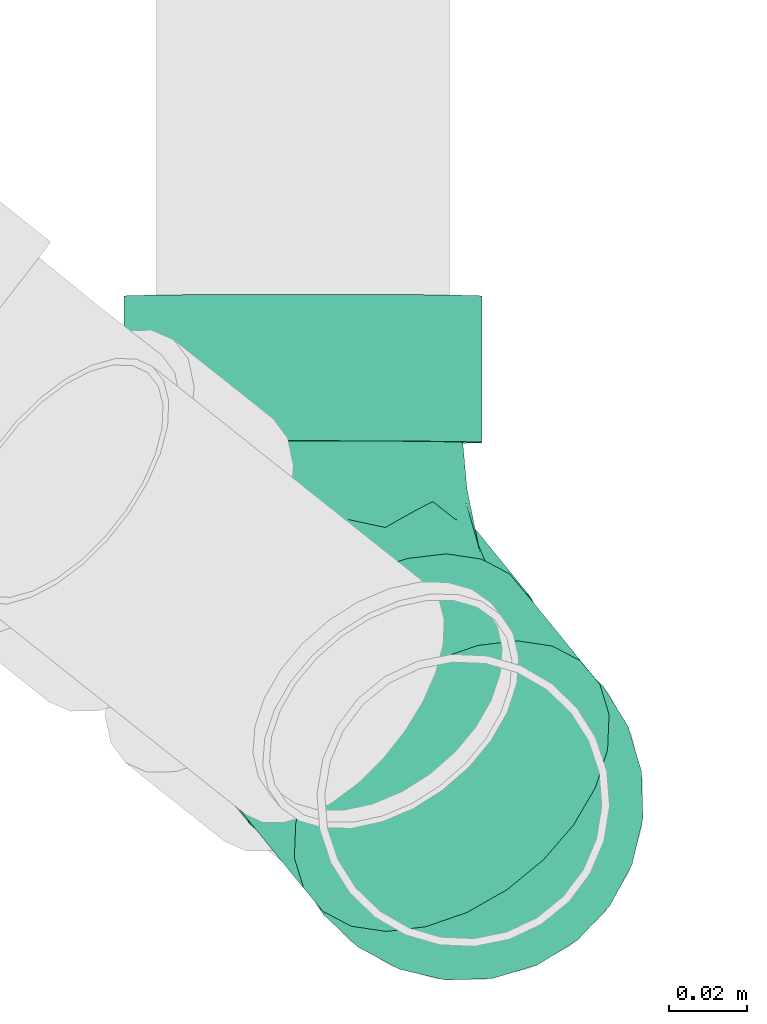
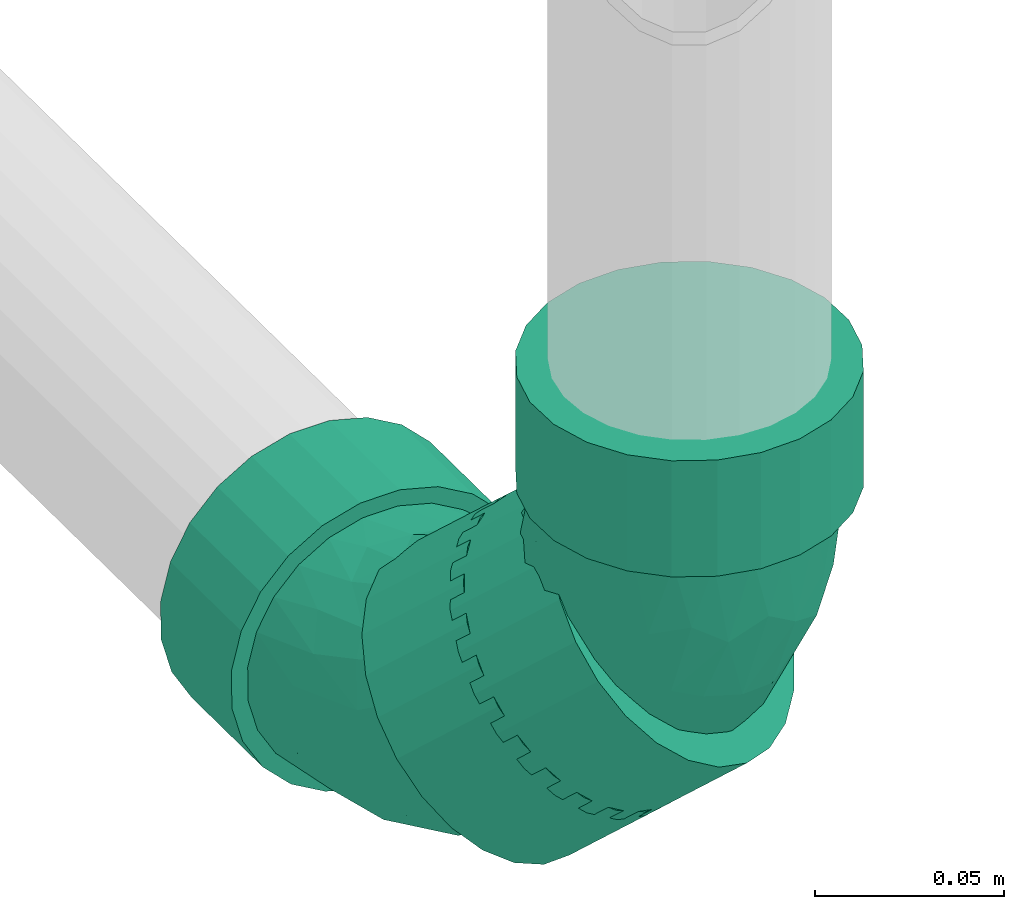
# One storey, part 3 of 4: 2 flow fittings.
"""IFC2X3 building model written with IfcOpenShell, lengths in millimetres."""

from ifc_helpers import new_model, entity, si_unit, converted_unit, derived_unit, direction, frame, origin_with_axes, place, context, subcontext, project, spatial, open_shell, surface_model, source, transform, mapped, type_object, element, save


model = new_model("IFC2X3")

# Units and contexts
model_context = context("Model", 3, precision=0.01, world=frame((0.0, 4.29681676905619e-09, 0.0)), true_north=direction((4.01073788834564e-13, 1.0)))
plan_context = context("Plan", 3, precision=0.01, world=frame((0.0, 4.29681676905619e-09, 0.0)), true_north=direction((4.01073788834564e-13, 1.0)))
body_context = subcontext(model_context, "Body", "Model", "MODEL_VIEW")
ifc_project = project(units=[converted_unit("PLANEANGLEUNIT", "DEGREE", entity("IfcPositiveLengthMeasure", 0.0174532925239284), si_unit("PLANEANGLEUNIT", "RADIAN"), dimensions=[0, 0, 0, 0, 0, 0, 0]), si_unit("AREAUNIT", "SQUARE_METRE"), si_unit("LENGTHUNIT", "METRE", prefix="MILLI"), si_unit("MASSUNIT", "GRAM", prefix="KILO"), si_unit("POWERUNIT", "WATT"), si_unit("PRESSUREUNIT", "PASCAL", prefix="KILO"), si_unit("FORCEUNIT", "NEWTON", prefix="KILO"), si_unit("ELECTRICVOLTAGEUNIT", "VOLT"), si_unit("ELECTRICCURRENTUNIT", "AMPERE"), si_unit("THERMODYNAMICTEMPERATUREUNIT", "DEGREE_CELSIUS"), si_unit("TIMEUNIT", "SECOND"), si_unit("VOLUMEUNIT", "CUBIC_METRE"), derived_unit("LINEARVELOCITYUNIT", [(si_unit("LENGTHUNIT", "METRE"), 1), (si_unit("TIMEUNIT", "SECOND"), -1)]), derived_unit("VOLUMETRICFLOWRATEUNIT", [(si_unit("VOLUMEUNIT", "CUBIC_METRE"), 1), (si_unit("TIMEUNIT", "SECOND"), -1)]), derived_unit("THERMALTRANSMITTANCEUNIT", [(si_unit("POWERUNIT", "WATT"), 1), (si_unit("THERMODYNAMICTEMPERATUREUNIT", "KELVIN"), -1), (si_unit("AREAUNIT", "SQUARE_METRE"), -1)]), derived_unit("SOUNDPRESSUREUNIT", [(si_unit("PRESSUREUNIT", "PASCAL"), 1)])], contexts=[model_context, plan_context])

# Site, building, storey
site_placement = place(None, frame((0.0, -4.29681676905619e-09, 0.0), z_axis=(0.0, 0.0, 1.0), x_axis=(1.0, 0.0, 0.0)))
site = spatial("IfcSite", under=ifc_project, at=site_placement, CompositionType="ELEMENT")
building_placement = place(site_placement, frame((0.0, 4.29681676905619e-09, 0.0), z_axis=(0.0, 0.0, 1.0), x_axis=(1.0, 0.0, 0.0)))
building = spatial("IfcBuilding", under=site, at=building_placement, Name="mc-building", CompositionType="ELEMENT")
storey_placement = place(building_placement, frame((0.0, 0.0, 200300.0), z_axis=(0.0, 0.0, 1.0), x_axis=(1.0, 0.0, 0.0)))
storey = spatial("IfcBuildingStorey", under=building, at=storey_placement, Name="Nivå C", CompositionType="ELEMENT", Elevation=200300.0)

# Flow fittings
pipe_fitting_type = type_object("IfcPipeFittingType", Name="magi_sewer_bend_001", PredefinedType="BEND")
shared_shape_1 = source(origin_with_axes(), body_context, "Body", "SurfaceModel", [
    surface_model("IfcShellBasedSurfaceModel", [(-78.74356, -44.67407, -11.97038), (-78.74356, -11.97038, -44.67407), (-78.74356, -23.125, -40.05367), (-78.74356, -32.70369, -32.70369), (-78.74356, 0.0, -46.25), (-78.74356, -40.05367, -23.125), (-78.74356, -46.25, 0.0), (-78.74356, 11.97038, -44.67407), (-78.74356, 32.70369, -32.70369), (-78.74356, 23.125, -40.05367), (-78.74356, 44.67407, -11.97038), (-78.74356, 40.05367, -23.125), (-78.74356, -32.70369, 32.70369), (-78.74356, -44.67407, 11.97038), (-78.74356, -40.05367, 23.125), (-78.74356, 40.05367, 23.125), (-78.74356, -23.125, 40.05367), (-78.74356, -11.97038, 44.67407), (-78.74356, 0.0, 46.25), (-78.74356, 11.97038, 44.67407), (-78.74356, 44.67407, 11.97038), (-78.74356, 46.25, 0.0), (-78.74356, 23.125, 40.05367), (-78.74356, 32.70369, 32.70369), (-41.24356, 0.0, 46.25), (-41.24356, -11.97038, 44.67407), (-41.24356, -23.125, 40.05367), (-41.24356, -32.70369, 32.70369), (-41.24356, -40.05367, 23.125), (-41.24356, -44.67407, 11.97038), (-41.24356, 40.05367, 23.125), (-41.24356, -44.67407, -11.97038), (-41.24356, 23.125, 40.05367), (-41.24356, 32.70369, 32.70369), (-41.24356, 11.97038, 44.67407), (-41.24356, 44.67407, 11.97038), (-41.24356, 44.67407, -11.97038), (-41.24356, 46.25, 0.0), (-41.24356, -32.70369, -32.70369), (-41.24356, -40.05367, -23.125), (-41.24356, -23.125, -40.05367), (-41.24356, -11.97038, -44.67407), (-41.24356, 11.97038, -44.67407), (-41.24356, 32.70369, -32.70369), (-41.24356, 40.05367, -23.125), (-41.24356, 23.125, -40.05367), (-41.24356, 0.0, -46.25), (-41.24356, -46.25, 0.0), (15.21406, 87.02516, 23.125), (10.25747, 90.74357, 0.0), (11.5181, 89.79785, 11.97038), (28.75574, 76.86626, 40.05367), (21.0935, 82.61442, 32.70369), (37.6786, 70.17237, 44.67407), (21.0935, 82.61442, -32.70369), (73.41451, 43.36347, 32.70369), (37.6786, 70.17237, -44.67407), (11.5181, 89.79785, -11.97038), (15.21406, 87.02516, -23.125), (28.75574, 76.86626, -40.05367), (47.254, 62.98895, 46.25), (56.82941, 55.80552, 44.67407), (65.75227, 49.11164, 40.05367), (82.98991, 36.18004, -11.97038), (79.29394, 38.95274, 23.125), (82.98991, 36.18004, 11.97038), (84.25054, 35.23433, 0.0), (65.75227, 49.11164, -40.05367), (56.82941, 55.80552, -44.67407), (47.254, 62.98895, -46.25), (73.41451, 43.36347, -32.70369), (79.29394, 38.95274, -23.125), (61.74679, 5.23714, 0.0), (60.48617, 6.18285, 11.97038), (56.7902, 8.95555, 23.125), (50.91076, 13.36628, 32.70369), (43.24852, 19.11445, 40.05367), (34.32566, 25.80833, 44.67407), (43.24852, 19.11445, -40.05367), (15.17485, 40.17518, 44.67407), (60.48617, 6.18285, -11.97038), (50.91076, 13.36628, -32.70369), (56.7902, 8.95555, -23.125), (34.32566, 25.80833, -44.67407), (15.17485, 40.17518, -44.67407), (24.75026, 32.99176, -46.25), (-1.41024, 52.61724, 32.70369), (6.25199, 46.86907, 40.05367), (-7.28968, 57.02796, 23.125), (-10.98565, 59.80066, -11.97038), (-10.98565, 59.80066, 11.97038), (-1.41024, 52.61724, -32.70369), (6.25199, 46.86907, -40.05367), (-7.28968, 57.02796, -23.125), (-12.24628, 60.74638, 0.0), (24.75026, 32.99176, 46.25), (-41.24356, 10.67629, -39.84444), (-41.24356, 0.0, -41.25), (-41.24356, 35.72355, -20.625), (-41.24356, 20.625, -35.72355), (-41.24356, -10.67629, -39.84444), (-41.24356, 29.16816, -29.16816), (-41.24356, 39.84444, -10.67629), (-41.24356, -29.16816, -29.16816), (-41.24356, -35.72355, -20.625), (-41.24356, -20.625, -35.72355), (-41.24356, -39.84444, -10.67629), (-41.24356, -41.25, 0.0), (-41.24356, -39.84444, 10.67629), (-41.24356, 41.25, 0.0), (-41.24356, 35.72355, 20.625), (-41.24356, 39.84444, 10.67629), (-41.24356, 10.67629, 39.84444), (-41.24356, 20.625, 35.72355), (-41.24356, 29.16816, 29.16816), (-41.24356, -35.72355, 20.625), (-41.24356, -29.16816, 29.16816), (-41.24356, -10.67629, 39.84444), (-41.24356, -20.625, 35.72355), (-41.24356, 0.0, 41.25), (-3.8259, 54.42945, -20.625), (24.75026, 32.99176, -41.25), (16.21003, 39.39859, -39.84444), (8.2518, 45.36882, -35.72355), (33.29048, 26.58492, -39.84444), (1.41792, 50.49556, -29.16816), (-7.12231, 56.9024, -10.67629), (41.24871, 20.6147, -35.72355), (53.32642, 11.55406, -20.625), (48.08259, 15.48795, -29.16816), (56.62282, 9.08111, -10.67629), (56.62282, 9.08111, 10.67629), (57.74717, 8.23764, 0.0), (-8.24665, 57.74588, 0.0), (-7.12231, 56.9024, 10.67629), (-3.8259, 54.42945, 20.625), (1.41792, 50.49556, 29.16816), (8.2518, 45.36882, 35.72355), (16.21003, 39.39859, 39.84444), (41.24871, 20.6147, 35.72355), (53.32642, 11.55406, 20.625), (48.08259, 15.48795, 29.16816), (24.75026, 32.99176, 41.25), (33.29048, 26.58492, 39.84444), (-20.94533, -38.08814, 0.0), (-12.54713, -35.38017, 13.94107), (-3.60373, -35.38683, 0.0), (10.00175, 23.24277, 41.03992), (13.38586, 11.51971, 40.63981), (24.3178, 7.54783, 37.54791), (4.65182, -7.60718, 36.80731), (-17.24776, -3.79471, 40.63981), (-20.6308, -14.92297, 37.54791), (-12.89454, -22.85586, 31.52504), (-5.55743, 11.1166, 41.16197), (-24.59452, 5.94733, 41.03992), (22.53111, -12.58461, 26.04054), (37.13338, -3.13069, 23.95118), (26.56936, -2.92087, 31.55675), (-21.61938, 17.23573, 38.67381), (-14.77323, 29.55106, 34.03713), (-29.41566, 25.54626, 33.3101), (13.58047, -27.16518, 9.64911), (30.46942, -18.35292, 0.0), (35.83101, -11.19487, 13.94107), (-2.78276, 38.86063, 33.3101), (-19.61074, -31.55757, 23.94182), (-24.74174, 34.60406, 26.22425), (-21.07697, 42.16051, 17.40017), (10.37134, -22.81163, 22.17888), (-4.42559, -30.22502, 19.98518), (-19.05001, 46.57922, 8.91045), (-3.08035, -25.07948, 26.45683), (-0.8135, 27.63705, 38.67381), (43.03695, -6.10199, 0.0), (-22.7983, 45.60373, 0.0), (8.11548, -15.41813, 31.05084), (-1.77734, 3.55523, 40.84584), (-10.42723, 42.50374, 26.01904), (13.43284, -26.86988, 0.0), (-17.24776, -3.79471, -40.63981), (25.9882, -15.13803, -20.05507), (13.58047, -27.16518, -9.64911), (10.37133, -22.81163, -22.17888), (13.38586, 11.51971, -40.63981), (-24.59452, 5.94733, -41.03992), (-27.74243, 33.84749, -26.01904), (24.3178, 7.54783, -37.54791), (-12.83314, 40.55743, -26.22425), (-21.07697, 42.16051, -17.40017), (37.00963, -3.253, -23.94163), (26.01018, -3.41054, -31.52442), (-25.82798, 43.19077, -8.91045), (-0.8135, 27.63705, -38.67381), (20.43717, -13.38586, -26.61938), (-21.61939, 17.23573, -38.67381), (-12.54713, -35.38017, -13.94107), (-4.26816, -25.74785, -26.16625), (-19.78185, -31.583, -23.95131), (-13.61838, -23.0085, -31.55722), (35.83101, -11.19487, -13.94107), (-20.6308, -14.92297, -37.54791), (3.26933, -8.29628, -36.80813), (7.451, -15.74778, -31.05279), (-1.77734, 3.55523, -40.84584), (-5.55743, 11.1166, -41.16197), (-2.78276, 38.86063, -33.31011), (-14.77323, 29.55106, -34.03713), (-29.41566, 25.54626, -33.3101), (10.00175, 23.24277, -41.03992)], [open_shell([[[0, 1, 2]], [[0, 2, 3]], [[1, 0, 4]], [[0, 3, 5]], [[4, 0, 6]], [[7, 8, 9]], [[8, 7, 4]], [[8, 10, 11]], [[10, 8, 4]], [[4, 6, 10]], [[6, 12, 10]], [[13, 14, 12]], [[10, 12, 15]], [[16, 17, 18]], [[16, 18, 12]], [[19, 12, 18]], [[10, 20, 21]], [[15, 20, 10]], [[15, 22, 23]], [[22, 15, 19]], [[12, 19, 15]], [[6, 13, 12]], [[24, 25, 26]], [[24, 26, 27]], [[27, 28, 29]], [[24, 27, 30]], [[27, 31, 30]], [[32, 30, 33]], [[30, 32, 34]], [[35, 36, 37]], [[30, 34, 24]], [[35, 30, 36]], [[27, 29, 31]], [[36, 30, 31]], [[38, 31, 39]], [[40, 41, 31]], [[40, 31, 38]], [[42, 31, 41]], [[36, 43, 44]], [[36, 31, 43]], [[43, 42, 45]], [[31, 42, 43]], [[41, 46, 42]], [[31, 29, 47]], [[36, 10, 37]], [[44, 11, 36]], [[9, 43, 45]], [[44, 43, 8]], [[7, 45, 42]], [[36, 11, 10]], [[10, 21, 37]], [[7, 9, 45]], [[8, 43, 9]], [[8, 11, 44]], [[4, 7, 42]], [[42, 46, 4]], [[46, 41, 1]], [[5, 39, 31]], [[39, 3, 38]], [[0, 31, 47]], [[1, 40, 2]], [[40, 1, 41]], [[40, 38, 2]], [[38, 3, 2]], [[39, 5, 3]], [[0, 5, 31]], [[47, 6, 0]], [[46, 1, 4]], [[29, 13, 47]], [[28, 14, 29]], [[16, 27, 26]], [[28, 27, 12]], [[17, 26, 25]], [[29, 14, 13]], [[13, 6, 47]], [[17, 16, 26]], [[12, 27, 16]], [[12, 14, 28]], [[18, 17, 25]], [[25, 24, 18]], [[33, 22, 32]], [[35, 15, 30]], [[33, 30, 23]], [[20, 35, 37]], [[32, 19, 34]], [[32, 22, 19]], [[19, 18, 34]], [[33, 23, 22]], [[30, 15, 23]], [[20, 15, 35]], [[37, 21, 20]], [[34, 18, 24]], [[48, 49, 50]], [[51, 48, 52]], [[48, 53, 54]], [[53, 48, 51]], [[53, 55, 56]], [[57, 54, 58]], [[57, 49, 48]], [[54, 56, 59]], [[57, 48, 54]], [[53, 56, 54]], [[53, 60, 61]], [[61, 62, 55]], [[55, 63, 56]], [[64, 65, 66]], [[55, 64, 63]], [[66, 63, 64]], [[67, 68, 56]], [[69, 56, 68]], [[70, 63, 71]], [[63, 70, 67]], [[67, 56, 63]], [[61, 55, 53]], [[72, 73, 74]], [[72, 74, 75]], [[75, 76, 77]], [[72, 75, 78]], [[75, 79, 78]], [[80, 81, 82]], [[81, 80, 78]], [[83, 84, 85]], [[78, 80, 72]], [[83, 78, 84]], [[75, 77, 79]], [[84, 78, 79]], [[86, 79, 87]], [[79, 88, 89]], [[88, 79, 86]], [[90, 89, 88]], [[84, 91, 92]], [[84, 79, 91]], [[91, 89, 93]], [[79, 89, 91]], [[90, 94, 89]], [[79, 77, 95]], [[84, 56, 85]], [[92, 59, 84]], [[58, 91, 93]], [[92, 91, 54]], [[57, 93, 89]], [[84, 59, 56]], [[56, 69, 85]], [[57, 58, 93]], [[54, 91, 58]], [[54, 59, 92]], [[49, 57, 89]], [[89, 94, 49]], [[94, 90, 50]], [[51, 87, 79]], [[87, 52, 86]], [[53, 79, 95]], [[50, 88, 48]], [[88, 50, 90]], [[88, 86, 48]], [[86, 52, 48]], [[87, 51, 52]], [[53, 51, 79]], [[95, 60, 53]], [[94, 50, 49]], [[77, 61, 95]], [[76, 62, 77]], [[64, 75, 74]], [[76, 75, 55]], [[65, 74, 73]], [[77, 62, 61]], [[61, 60, 95]], [[65, 64, 74]], [[55, 75, 64]], [[55, 62, 76]], [[66, 65, 73]], [[73, 72, 66]], [[63, 72, 80]], [[71, 80, 82]], [[67, 78, 83]], [[68, 83, 85]], [[82, 70, 71]], [[71, 63, 80]], [[81, 67, 70]], [[81, 78, 67]], [[67, 83, 68]], [[85, 69, 68]], [[81, 70, 82]], [[72, 63, 66]], [[96, 97, 98]], [[99, 96, 98]], [[100, 98, 97]], [[101, 99, 98]], [[102, 98, 100]], [[103, 104, 105]], [[100, 105, 104]], [[104, 106, 100]], [[106, 102, 100]], [[107, 108, 106]], [[109, 102, 106]], [[110, 111, 109]], [[108, 110, 106]], [[112, 113, 114]], [[108, 114, 110]], [[114, 108, 112]], [[115, 116, 108]], [[117, 108, 116]], [[118, 117, 116]], [[117, 112, 108]], [[117, 119, 112]], [[109, 106, 110]], [[120, 121, 122]], [[120, 122, 123]], [[121, 120, 124]], [[120, 123, 125]], [[124, 120, 126]], [[127, 128, 129]], [[128, 127, 124]], [[124, 130, 128]], [[124, 126, 130]], [[130, 131, 132]], [[130, 126, 133]], [[133, 134, 135]], [[133, 135, 136]], [[136, 137, 138]], [[133, 136, 139]], [[139, 136, 138]], [[130, 140, 131]], [[130, 141, 140]], [[139, 142, 143]], [[130, 139, 141]], [[138, 142, 139]], [[139, 130, 133]], [[108, 144, 145]], [[144, 146, 145]], [[142, 147, 148]], [[148, 149, 143]], [[150, 151, 152]], [[115, 108, 145]], [[142, 138, 147]], [[153, 118, 116]], [[151, 154, 155]], [[119, 117, 151]], [[156, 157, 158]], [[117, 152, 151]], [[155, 112, 119]], [[159, 160, 161]], [[162, 163, 164]], [[137, 136, 165]], [[157, 141, 158]], [[161, 114, 113]], [[116, 115, 166]], [[110, 167, 168]], [[111, 110, 168]], [[169, 170, 162]], [[171, 109, 111]], [[166, 170, 172]], [[166, 153, 116]], [[113, 112, 159]], [[139, 158, 141]], [[149, 139, 143]], [[149, 150, 158]], [[142, 148, 143]], [[154, 173, 159]], [[140, 164, 131]], [[154, 147, 173]], [[157, 140, 141]], [[160, 159, 173]], [[164, 174, 131]], [[115, 145, 166]], [[155, 159, 112]], [[156, 164, 157]], [[111, 168, 171]], [[146, 162, 145]], [[175, 171, 133]], [[176, 150, 153]], [[134, 171, 168]], [[177, 150, 148]], [[168, 167, 178]], [[135, 134, 168]], [[135, 178, 136]], [[117, 118, 152]], [[138, 137, 173]], [[137, 165, 173]], [[110, 114, 167]], [[151, 177, 154]], [[162, 146, 179]], [[170, 166, 145]], [[150, 176, 158]], [[164, 140, 157]], [[161, 167, 114]], [[160, 165, 178]], [[118, 153, 152]], [[150, 152, 153]], [[150, 149, 148]], [[158, 139, 149]], [[108, 107, 144]], [[174, 164, 163]], [[174, 132, 131]], [[169, 162, 164]], [[151, 155, 119]], [[159, 155, 154]], [[173, 147, 138]], [[148, 147, 154]], [[168, 178, 135]], [[160, 178, 167]], [[159, 161, 113]], [[167, 161, 160]], [[178, 165, 136]], [[173, 165, 160]], [[172, 176, 153]], [[156, 176, 169]], [[133, 171, 134]], [[171, 175, 109]], [[150, 177, 151]], [[148, 154, 177]], [[162, 170, 145]], [[172, 170, 169]], [[176, 172, 169]], [[166, 172, 153]], [[176, 156, 158]], [[164, 156, 169]], [[163, 162, 179]], [[180, 100, 97]], [[181, 182, 183]], [[121, 124, 184]], [[96, 185, 97]], [[98, 186, 101]], [[124, 187, 184]], [[188, 186, 189]], [[129, 190, 191]], [[102, 192, 189]], [[123, 122, 193]], [[190, 181, 194]], [[99, 195, 96]], [[196, 144, 106]], [[197, 198, 199]], [[181, 190, 200]], [[106, 104, 196]], [[201, 105, 100]], [[202, 203, 199]], [[198, 104, 103]], [[130, 132, 174]], [[103, 105, 199]], [[126, 120, 189]], [[184, 204, 205]], [[120, 125, 188]], [[109, 175, 192]], [[128, 200, 190]], [[133, 126, 192]], [[204, 202, 180]], [[125, 123, 206]], [[189, 98, 102]], [[120, 188, 189]], [[180, 201, 100]], [[207, 206, 193]], [[97, 185, 180]], [[208, 195, 99]], [[101, 208, 99]], [[198, 103, 199]], [[209, 122, 121]], [[129, 191, 127]], [[182, 163, 179]], [[182, 200, 163]], [[187, 202, 184]], [[129, 128, 190]], [[205, 209, 184]], [[200, 130, 174]], [[124, 127, 187]], [[200, 174, 163]], [[209, 193, 122]], [[205, 185, 195]], [[128, 130, 200]], [[197, 196, 198]], [[203, 202, 191]], [[207, 193, 195]], [[126, 189, 192]], [[205, 195, 193]], [[201, 202, 199]], [[196, 104, 198]], [[206, 188, 125]], [[207, 208, 186]], [[127, 191, 187]], [[202, 187, 191]], [[202, 201, 180]], [[199, 105, 201]], [[144, 196, 146]], [[144, 107, 106]], [[146, 196, 182]], [[183, 182, 196]], [[195, 185, 96]], [[180, 185, 205]], [[184, 209, 121]], [[193, 209, 205]], [[189, 186, 98]], [[207, 186, 188]], [[186, 208, 101]], [[195, 208, 207]], [[193, 206, 123]], [[188, 206, 207]], [[194, 203, 191]], [[197, 203, 183]], [[109, 192, 102]], [[192, 175, 133]], [[202, 204, 184]], [[180, 205, 204]], [[182, 181, 200]], [[194, 181, 183]], [[203, 194, 183]], [[190, 194, 191]], [[203, 197, 199]], [[196, 197, 183]], [[146, 182, 179]]])]),
])
flow_fitting_1_placement = place(storey_placement, frame((324436.0678, 463038.22912, 9096.50479000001), z_axis=(-0.796591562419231, 0.00604499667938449, 0.604487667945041), x_axis=(1.45178732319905e-07, -0.999949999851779, 0.00999988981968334)))
element("IfcFlowFitting", 1, at=flow_fitting_1_placement, inside=storey, type_object=pipe_fitting_type, Name="magi_sewer_bend_001", context=body_context, shape_type="MappedRepresentation", body=[
    mapped(shared_shape_1, transform((0.0, 0.0, 0.0), scale=1.0)),
])
shared_shape_2 = source(origin_with_axes(), body_context, "Body", "SurfaceModel", [
    surface_model("IfcShellBasedSurfaceModel", [(-75.9445, -44.67407, -11.97038), (-75.9445, -11.97038, -44.67407), (-75.9445, -23.125, -40.05367), (-75.9445, -32.70369, -32.70369), (-75.9445, 0.0, -46.25), (-75.9445, -40.05367, -23.125), (-75.9445, -46.25, 0.0), (-75.9445, 11.97038, -44.67407), (-75.9445, 32.70369, -32.70369), (-75.9445, 23.125, -40.05367), (-75.9445, 44.67407, -11.97038), (-75.9445, 40.05367, -23.125), (-75.9445, -32.70369, 32.70369), (-75.9445, -44.67407, 11.97038), (-75.9445, -40.05367, 23.125), (-75.9445, 40.05367, 23.125), (-75.9445, -23.125, 40.05367), (-75.9445, -11.97038, 44.67407), (-75.9445, 0.0, 46.25), (-75.9445, 11.97038, 44.67407), (-75.9445, 44.67407, 11.97038), (-75.9445, 46.25, 0.0), (-75.9445, 23.125, 40.05367), (-75.9445, 32.70369, 32.70369), (-38.4445, 0.0, 46.25), (-38.4445, -11.97038, 44.67407), (-38.4445, -23.125, 40.05367), (-38.4445, -32.70369, 32.70369), (-38.4445, -40.05367, 23.125), (-38.4445, -44.67407, 11.97038), (-38.4445, 40.05367, 23.125), (-38.4445, -44.67407, -11.97038), (-38.4445, 23.125, 40.05367), (-38.4445, 32.70369, 32.70369), (-38.4445, 11.97038, 44.67407), (-38.4445, 44.67407, 11.97038), (-38.4445, 44.67407, -11.97038), (-38.4445, 46.25, 0.0), (-38.4445, -32.70369, -32.70369), (-38.4445, -40.05367, -23.125), (-38.4445, -23.125, -40.05367), (-38.4445, -11.97038, -44.67407), (-38.4445, 11.97038, -44.67407), (-38.4445, 32.70369, -32.70369), (-38.4445, 40.05367, -23.125), (-38.4445, 23.125, -40.05367), (-38.4445, 0.0, -46.25), (-38.4445, -46.25, 0.0), (18.17654, 83.91351, 23.125), (13.43193, 87.89888, 0.0), (14.63864, 86.88527, 11.97038), (31.13905, 73.02529, 40.05367), (23.80452, 79.18613, 32.70369), (39.68029, 65.85083, 44.67407), (48.84616, 58.1517, -46.25), (39.68029, 65.85083, -44.67407), (14.63864, 86.88527, -11.97038), (23.80452, 79.18613, -32.70369), (18.17654, 83.91351, -23.125), (31.13905, 73.02529, -40.05367), (48.84616, 58.1517, 46.25), (58.01204, 50.45256, 44.67407), (66.55328, 43.2781, 40.05367), (73.8878, 37.11726, 32.70369), (66.55328, 43.2781, -40.05367), (79.51579, 32.38988, 23.125), (83.05368, 29.41812, 11.97038), (84.26039, 28.40451, 0.0), (83.05368, 29.41812, -11.97038), (58.01204, 50.45256, -44.67407), (73.8878, 37.11726, -32.70369), (79.51579, 32.38988, -23.125), (60.14105, -0.30973, 0.0), (58.93434, 0.70388, 11.97038), (55.39645, 3.67564, 23.125), (55.39645, 3.67564, -23.125), (49.76846, 8.40302, 32.70369), (42.43394, 14.56386, 40.05367), (33.8927, 21.73832, 44.67407), (15.56095, 37.13659, 44.67407), (42.43394, 14.56386, -40.05367), (49.76846, 8.40302, -32.70369), (58.93434, 0.70388, -11.97038), (33.8927, 21.73832, -44.67407), (15.56095, 37.13659, -44.67407), (24.72682, 29.43746, -46.25), (-9.48069, 58.17103, 11.97038), (7.01971, 44.31105, 40.05367), (-5.9428, 55.19927, 23.125), (-0.31482, 50.47189, 32.70369), (-10.6874, 59.18464, 0.0), (-0.31482, 50.47189, -32.70369), (7.01971, 44.31105, -40.05367), (-9.48069, 58.17103, -11.97038), (-5.9428, 55.19927, -23.125), (24.72682, 29.43746, 46.25), (-38.4445, 10.67629, -39.84444), (-38.4445, 0.0, -41.25), (-38.4445, 35.72355, -20.625), (-38.4445, 20.625, -35.72355), (-38.4445, -10.67629, -39.84444), (-38.4445, 29.16816, -29.16816), (-38.4445, 39.84444, -10.67629), (-38.4445, -29.16816, -29.16816), (-38.4445, -35.72355, -20.625), (-38.4445, -20.625, -35.72355), (-38.4445, -39.84444, -10.67629), (-38.4445, -41.25, 0.0), (-38.4445, -39.84444, 10.67629), (-38.4445, 41.25, 0.0), (-38.4445, 35.72355, 20.625), (-38.4445, 39.84444, 10.67629), (-38.4445, 10.67629, 39.84444), (-38.4445, 20.625, 35.72355), (-38.4445, 29.16816, 29.16816), (-38.4445, -35.72355, 20.625), (-38.4445, -29.16816, 29.16816), (-38.4445, -10.67629, 39.84444), (-38.4445, -20.625, 35.72355), (-38.4445, 0.0, 41.25), (16.55185, 36.30425, -39.84444), (40.51966, 16.17182, -35.72355), (24.72682, 29.43746, -41.25), (-2.62716, 52.41421, -20.625), (8.93399, 42.70309, -35.72355), (2.39239, 48.1979, -29.16816), (55.23623, 3.81022, -10.67629), (-5.78258, 55.0647, -10.67629), (52.08081, 6.4607, -20.625), (47.06126, 10.67701, -29.16816), (32.9018, 22.57066, -39.84444), (55.23623, 3.81022, 10.67629), (56.31249, 2.90618, 0.0), (-6.85884, 55.96873, 0.0), (-5.78258, 55.0647, 10.67629), (-2.62716, 52.41421, 20.625), (8.93399, 42.70309, 35.72355), (32.9018, 22.57066, 39.84444), (2.39239, 48.1979, 29.16816), (16.55185, 36.30425, 39.84444), (24.72682, 29.43746, 41.25), (47.06126, 10.67701, 29.16816), (52.08081, 6.4607, 20.625), (40.51966, 16.17182, 35.72355), (-18.1088, -38.27304, 0.0), (-9.90981, -35.37608, 14.05783), (-2.97297, -36.0573, 0.0), (-11.66068, -23.09806, 31.66057), (35.23662, -7.13029, 24.02989), (-18.23345, -14.90811, 37.59185), (4.14972, -8.9051, 36.94759), (-17.20382, -31.56722, 24.02989), (10.31936, 21.38255, 41.02394), (-15.31608, -3.87236, 40.6662), (-4.86666, 10.44361, 41.14046), (-23.01013, 5.85121, 41.02394), (11.01133, -23.62977, 22.47864), (25.18643, -5.92753, 31.66057), (23.14277, 4.37296, 37.59185), (-19.36613, 17.19966, 38.62887), (-13.53013, 29.03499, 33.89113), (-27.55079, 25.46585, 33.23407), (13.07021, -28.04803, 12.01435), (33.46175, -15.1652, 14.05783), (-1.77935, 37.47518, 33.23407), (-22.18917, 34.58791, 26.14578), (-19.43115, 41.6983, 17.21581), (-17.9505, 45.60814, 8.81127), (13.27437, -28.48614, 0.0), (12.81614, 9.23709, 40.6662), (-0.28434, 26.22569, 38.61474), (40.95343, -10.7504, 0.0), (-21.02113, 45.11031, 0.0), (7.4943, -16.0824, 31.81108), (-1.55076, 3.32785, 40.96432), (-8.78491, 41.77927, 25.87842), (29.5217, -20.91498, 0.0), (-15.31608, -3.87236, -40.6662), (-19.43116, 41.6983, -17.21581), (-26.34064, 33.59841, -25.87842), (12.81614, 9.23709, -40.6662), (-23.01013, 5.85121, -41.02394), (25.18643, -5.92753, -31.66057), (-12.21274, 39.23687, -26.14578), (33.46175, -15.1652, -14.05783), (-23.3773, 43.07928, -8.81127), (-0.71404, 25.89142, -38.62887), (11.01133, -23.62977, -22.47864), (35.23662, -7.13029, -24.02989), (-19.89847, 17.08562, -38.61474), (-9.90981, -35.37608, -14.05783), (-17.20382, -31.56722, -24.02989), (-11.66068, -23.09806, -31.66057), (7.4943, -16.0824, -31.81108), (-18.23345, -14.90811, -37.59185), (-1.55076, 3.32785, -40.96432), (-4.86666, 10.44361, -41.14046), (4.14972, -8.9051, -36.94759), (-1.77935, 37.47518, -33.23407), (-13.53013, 29.03499, -33.89113), (-27.55079, 25.46584, -33.23407), (10.31936, 21.38255, -41.02394), (23.14277, 4.37296, -37.59185), (13.07021, -28.04803, -12.01435)], [open_shell([[[0, 1, 2]], [[0, 2, 3]], [[1, 0, 4]], [[0, 3, 5]], [[4, 0, 6]], [[7, 8, 9]], [[8, 7, 4]], [[8, 10, 11]], [[10, 8, 4]], [[4, 6, 10]], [[6, 12, 10]], [[13, 14, 12]], [[10, 12, 15]], [[16, 17, 18]], [[16, 18, 12]], [[19, 12, 18]], [[10, 20, 21]], [[15, 20, 10]], [[15, 22, 23]], [[22, 15, 19]], [[12, 19, 15]], [[6, 13, 12]], [[24, 25, 26]], [[24, 26, 27]], [[27, 28, 29]], [[24, 27, 30]], [[27, 31, 30]], [[32, 30, 33]], [[30, 32, 34]], [[35, 36, 37]], [[30, 34, 24]], [[35, 30, 36]], [[27, 29, 31]], [[36, 30, 31]], [[38, 31, 39]], [[40, 41, 31]], [[40, 31, 38]], [[42, 31, 41]], [[36, 43, 44]], [[36, 31, 43]], [[43, 42, 45]], [[31, 42, 43]], [[41, 46, 42]], [[31, 29, 47]], [[36, 10, 37]], [[44, 11, 36]], [[9, 43, 45]], [[44, 43, 8]], [[7, 45, 42]], [[36, 11, 10]], [[10, 21, 37]], [[7, 9, 45]], [[8, 43, 9]], [[8, 11, 44]], [[4, 7, 42]], [[42, 46, 4]], [[46, 41, 1]], [[5, 39, 31]], [[39, 3, 38]], [[0, 31, 47]], [[1, 40, 2]], [[40, 1, 41]], [[40, 38, 2]], [[38, 3, 2]], [[39, 5, 3]], [[0, 5, 31]], [[47, 6, 0]], [[46, 1, 4]], [[29, 13, 47]], [[28, 14, 29]], [[16, 27, 26]], [[28, 27, 12]], [[17, 26, 25]], [[29, 14, 13]], [[13, 6, 47]], [[17, 16, 26]], [[12, 27, 16]], [[12, 14, 28]], [[18, 17, 25]], [[25, 24, 18]], [[33, 22, 32]], [[35, 15, 30]], [[33, 30, 23]], [[20, 35, 37]], [[32, 19, 34]], [[32, 22, 19]], [[19, 18, 34]], [[33, 23, 22]], [[30, 15, 23]], [[20, 15, 35]], [[37, 21, 20]], [[34, 18, 24]], [[48, 49, 50]], [[51, 48, 52]], [[49, 48, 53]], [[53, 48, 51]], [[54, 55, 53]], [[56, 57, 58]], [[57, 56, 49]], [[57, 55, 59]], [[55, 57, 49]], [[49, 53, 55]], [[53, 60, 54]], [[61, 62, 63]], [[60, 63, 54]], [[64, 65, 66]], [[64, 63, 65]], [[67, 68, 66]], [[54, 64, 69]], [[54, 63, 64]], [[70, 68, 71]], [[68, 70, 64]], [[66, 68, 64]], [[63, 60, 61]], [[72, 73, 74]], [[75, 72, 74]], [[76, 77, 78]], [[75, 74, 76]], [[76, 79, 80]], [[75, 80, 81]], [[75, 82, 72]], [[83, 84, 85]], [[80, 75, 76]], [[80, 84, 83]], [[76, 78, 79]], [[84, 80, 79]], [[86, 79, 87]], [[88, 86, 87]], [[88, 87, 89]], [[90, 79, 86]], [[84, 91, 92]], [[91, 84, 93]], [[91, 93, 94]], [[93, 84, 90]], [[84, 79, 90]], [[79, 78, 95]], [[84, 55, 85]], [[92, 59, 84]], [[58, 91, 94]], [[92, 91, 57]], [[56, 94, 93]], [[84, 59, 55]], [[55, 54, 85]], [[56, 58, 94]], [[57, 91, 58]], [[57, 59, 92]], [[49, 56, 93]], [[93, 90, 49]], [[90, 86, 50]], [[51, 87, 79]], [[87, 52, 89]], [[53, 79, 95]], [[50, 88, 48]], [[88, 50, 86]], [[88, 89, 48]], [[89, 52, 48]], [[87, 51, 52]], [[53, 51, 79]], [[95, 60, 53]], [[90, 50, 49]], [[78, 61, 95]], [[77, 62, 78]], [[65, 76, 74]], [[77, 76, 63]], [[66, 74, 73]], [[78, 62, 61]], [[61, 60, 95]], [[66, 65, 74]], [[63, 76, 65]], [[63, 62, 77]], [[67, 66, 73]], [[73, 72, 67]], [[81, 71, 75]], [[83, 64, 80]], [[81, 80, 70]], [[69, 83, 85]], [[75, 68, 82]], [[75, 71, 68]], [[68, 67, 82]], [[81, 70, 71]], [[80, 64, 70]], [[69, 64, 83]], [[85, 54, 69]], [[82, 67, 72]], [[96, 97, 98]], [[99, 96, 98]], [[100, 98, 97]], [[101, 99, 98]], [[102, 98, 100]], [[103, 104, 105]], [[100, 105, 104]], [[104, 106, 100]], [[106, 102, 100]], [[107, 108, 106]], [[109, 102, 106]], [[110, 111, 109]], [[108, 110, 106]], [[112, 113, 114]], [[108, 114, 110]], [[114, 108, 112]], [[115, 116, 108]], [[117, 108, 116]], [[118, 117, 116]], [[117, 112, 108]], [[117, 119, 112]], [[109, 106, 110]], [[120, 121, 122]], [[123, 120, 124]], [[121, 120, 123]], [[123, 124, 125]], [[126, 123, 127]], [[121, 128, 129]], [[121, 130, 122]], [[121, 126, 128]], [[123, 126, 121]], [[126, 131, 132]], [[126, 127, 133]], [[133, 134, 135]], [[126, 135, 131]], [[135, 136, 137]], [[136, 135, 138]], [[139, 140, 136]], [[131, 141, 142]], [[131, 135, 141]], [[141, 137, 143]], [[141, 135, 137]], [[140, 137, 136]], [[135, 126, 133]], [[108, 144, 145]], [[144, 146, 145]], [[118, 116, 147]], [[142, 141, 148]], [[149, 147, 150]], [[151, 147, 116]], [[140, 139, 152]], [[117, 118, 149]], [[153, 154, 155]], [[119, 117, 153]], [[156, 148, 157]], [[143, 137, 158]], [[155, 112, 119]], [[159, 160, 161]], [[162, 163, 156]], [[136, 138, 164]], [[148, 141, 157]], [[161, 114, 113]], [[116, 115, 151]], [[110, 165, 166]], [[111, 110, 166]], [[156, 145, 162]], [[167, 109, 111]], [[156, 147, 151]], [[146, 168, 162]], [[113, 112, 159]], [[140, 152, 169]], [[141, 143, 157]], [[158, 169, 150]], [[140, 169, 137]], [[154, 170, 159]], [[142, 163, 131]], [[154, 152, 170]], [[157, 143, 158]], [[170, 136, 164]], [[163, 171, 131]], [[115, 145, 151]], [[155, 159, 112]], [[148, 156, 163]], [[111, 166, 167]], [[145, 115, 108]], [[172, 167, 133]], [[147, 173, 150]], [[134, 167, 166]], [[174, 150, 169]], [[166, 165, 175]], [[135, 134, 166]], [[135, 175, 138]], [[149, 153, 117]], [[139, 136, 170]], [[170, 160, 159]], [[110, 114, 165]], [[153, 174, 154]], [[153, 155, 119]], [[156, 151, 145]], [[173, 156, 157]], [[163, 142, 148]], [[161, 165, 114]], [[160, 164, 175]], [[147, 149, 118]], [[153, 149, 150]], [[169, 158, 137]], [[157, 158, 150]], [[108, 107, 144]], [[171, 163, 176]], [[171, 132, 131]], [[159, 155, 154]], [[170, 152, 139]], [[169, 152, 154]], [[162, 176, 163]], [[166, 175, 135]], [[160, 175, 165]], [[159, 161, 113]], [[165, 161, 160]], [[175, 164, 138]], [[170, 164, 160]], [[156, 173, 147]], [[157, 150, 173]], [[133, 167, 134]], [[167, 172, 109]], [[150, 174, 153]], [[169, 154, 174]], [[146, 162, 145]], [[176, 162, 168]], [[177, 100, 97]], [[178, 179, 98]], [[122, 130, 180]], [[96, 181, 97]], [[98, 179, 101]], [[121, 129, 182]], [[183, 179, 178]], [[184, 128, 126]], [[102, 185, 178]], [[124, 120, 186]], [[187, 182, 188]], [[99, 189, 96]], [[190, 144, 106]], [[187, 191, 192]], [[187, 188, 184]], [[106, 104, 190]], [[103, 105, 192]], [[193, 187, 192]], [[126, 132, 171]], [[103, 191, 104]], [[194, 105, 100]], [[127, 123, 178]], [[180, 195, 196]], [[123, 125, 183]], [[109, 172, 185]], [[128, 184, 188]], [[133, 127, 185]], [[195, 197, 177]], [[125, 124, 198]], [[178, 98, 102]], [[123, 183, 178]], [[194, 192, 105]], [[199, 198, 186]], [[181, 177, 97]], [[199, 186, 189]], [[101, 200, 99]], [[191, 103, 192]], [[201, 120, 122]], [[202, 130, 121]], [[146, 190, 203]], [[129, 188, 182]], [[197, 202, 182]], [[129, 128, 188]], [[196, 201, 180]], [[184, 126, 171]], [[202, 180, 130]], [[184, 171, 176]], [[201, 186, 120]], [[196, 181, 189]], [[203, 190, 187]], [[191, 187, 190]], [[182, 193, 197]], [[189, 99, 200]], [[127, 178, 185]], [[196, 189, 186]], [[194, 177, 197]], [[190, 104, 191]], [[198, 183, 125]], [[199, 200, 179]], [[177, 194, 100]], [[192, 194, 197]], [[182, 202, 121]], [[180, 202, 197]], [[144, 190, 146]], [[144, 107, 106]], [[189, 181, 96]], [[177, 181, 196]], [[180, 201, 122]], [[186, 201, 196]], [[203, 187, 184]], [[168, 203, 176]], [[199, 179, 183]], [[179, 200, 101]], [[189, 200, 199]], [[186, 198, 124]], [[183, 198, 199]], [[187, 193, 182]], [[192, 197, 193]], [[109, 185, 102]], [[185, 172, 133]], [[197, 195, 180]], [[177, 196, 195]], [[176, 203, 184]], [[146, 203, 168]]])]),
])
flow_fitting_2_placement = place(storey_placement, frame((324477.11273, 462987.83653, 9151.09755000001), z_axis=(-0.775353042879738, -0.631528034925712, 2.77555756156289e-17), x_axis=(0.483569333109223, -0.593698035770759, 0.643182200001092)))
element("IfcFlowFitting", 2, at=flow_fitting_2_placement, inside=storey, type_object=pipe_fitting_type, Name="magi_sewer_bend_001", context=body_context, shape_type="MappedRepresentation", body=[
    mapped(shared_shape_2, transform((0.0, 0.0, 0.0), scale=1.0)),
])

save(model, "model.ifc")
